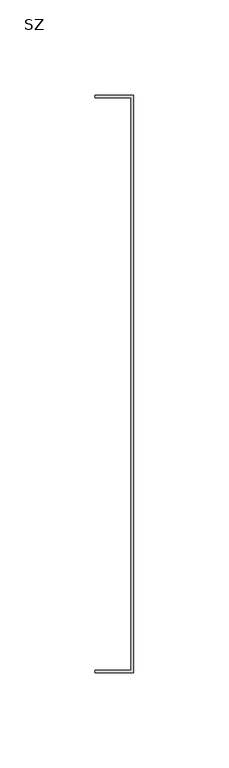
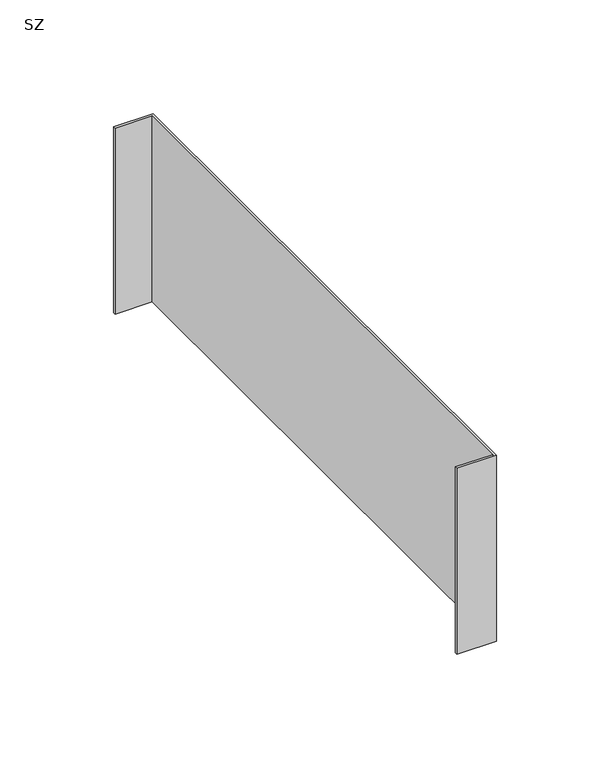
"""IFC4 building model written with IfcOpenShell, lengths in millimetres: cable carrier fitting geometry, IEK_Лестничный_Заглушка : SZ."""

from ifc_helpers import new_model, si_unit, frame, origin, place, context, project, spatial, polyline, outline, extrude, source, transform, mapped, element, save


def sz_b1535532(model_context):
    return source(origin(), model_context, "Body", "SweptSolid", [
        extrude(outline(polyline([(-18.8134329, -151.2), (-18.8134329, -150.0), (0.0, -150.0), (0.0, 150.0), (-18.8134329, 150.0), (-18.8134329, 151.2), (1.1865671, 151.2), (1.1865671, -151.2), (-18.8134329, -151.2)])), frame((0.0, 0.0, -50.0), z_axis=(0.0, 0.0, 1.0), x_axis=(1.0, 0.0, 0.0)), (0.0, 0.0, 1.0), 100.0),
    ])


if __name__ == "__main__":
    model = new_model("IFC4")
    model_context = context("Model", 3, world=origin())
    ifc_project = project(units=[si_unit("LENGTHUNIT", "METRE", prefix="MILLI")], contexts=[model_context])
    site = spatial("IfcSite", under=ifc_project)
    building = spatial("IfcBuilding", under=site)
    placement = place(None, origin())
    sz_shape = sz_b1535532(model_context)
    element("IfcCableCarrierFitting", 1, ObjectType="IEK_Лестничный_Заглушка : SZ", at=placement, inside=building, context=model_context, shape_type="MappedRepresentation", body=[
        mapped(sz_shape, transform((0.0, 0.0, 0.0), x_axis=(1.0, 0.0, 0.0), y_axis=(0.0, 1.0, 0.0), z_axis=(0.0, 0.0, 1.0))),
    ])
    save(model, "model.ifc")
